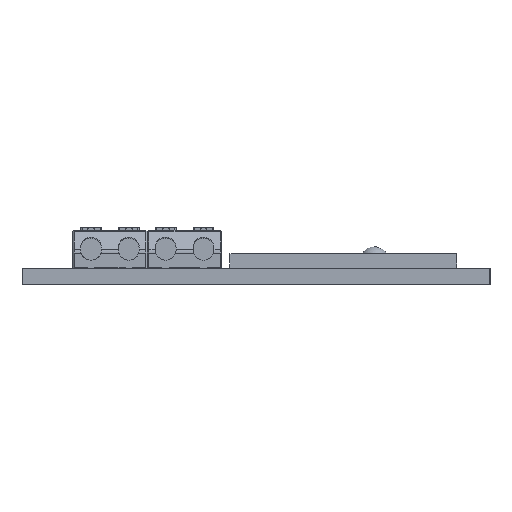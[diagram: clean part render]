
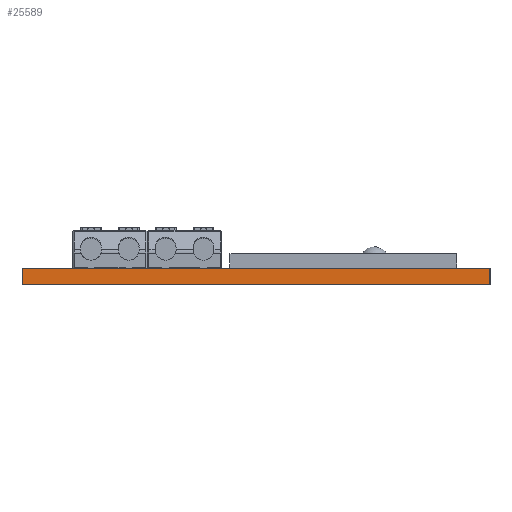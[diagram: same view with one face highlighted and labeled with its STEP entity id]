
A CAD part, left-side view. The second image highlights one B-rep face of the part: STEP entity #25589.
In plain terms, the highlighted planar face has unit normal (-1, 0, 0).
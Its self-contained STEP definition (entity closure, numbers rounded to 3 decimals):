
#860=LINE('',#38232,#3394);
#2687=LINE('',#45558,#5221);
#2688=LINE('',#45561,#5222);
#2689=LINE('',#45562,#5223);
#3394=VECTOR('',#28755,10.);
#5221=VECTOR('',#33384,10.);
#5222=VECTOR('',#33387,10.);
#5223=VECTOR('',#33388,10.);
#7603=FACE_OUTER_BOUND('',#9092,.T.);
#9092=EDGE_LOOP('',(#22544,#22545,#22546,#22547));
#10437=VERTEX_POINT('',#38225);
#10440=VERTEX_POINT('',#38230);
#11990=VERTEX_POINT('',#45556);
#11991=VERTEX_POINT('',#45560);
#13130=EDGE_CURVE('',#10440,#10437,#860,.T.);
#15527=EDGE_CURVE('',#10440,#11990,#2687,.T.);
#15528=EDGE_CURVE('',#11991,#11990,#2688,.T.);
#15529=EDGE_CURVE('',#10437,#11991,#2689,.T.);
#22544=ORIENTED_EDGE('',*,*,#13130,.F.);
#22545=ORIENTED_EDGE('',*,*,#15527,.T.);
#22546=ORIENTED_EDGE('',*,*,#15528,.F.);
#22547=ORIENTED_EDGE('',*,*,#15529,.F.);
#23431=PLANE('',#27377);
#25589=ADVANCED_FACE('',(#7603),#23431,.T.);
#27377=AXIS2_PLACEMENT_3D('',#45559,#33385,#33386);
#28755=DIRECTION('',(0.,-1.,0.));
#33384=DIRECTION('',(0.,0.,-1.));
#33385=DIRECTION('center_axis',(-1.,0.,0.));
#33386=DIRECTION('ref_axis',(0.,1.,0.));
#33387=DIRECTION('',(0.,1.,0.));
#33388=DIRECTION('',(0.,0.,-1.));
#38225=CARTESIAN_POINT('',(0.,0.,0.));
#38230=CARTESIAN_POINT('',(0.,49.5,0.));
#38232=CARTESIAN_POINT('',(0.,49.5,0.));
#45556=CARTESIAN_POINT('',(0.,49.5,-1.7));
#45558=CARTESIAN_POINT('',(0.,49.5,0.));
#45559=CARTESIAN_POINT('Origin',(0.,0.,0.));
#45560=CARTESIAN_POINT('',(0.,0.,-1.7));
#45561=CARTESIAN_POINT('',(0.,49.5,-1.7));
#45562=CARTESIAN_POINT('',(0.,0.,0.));
